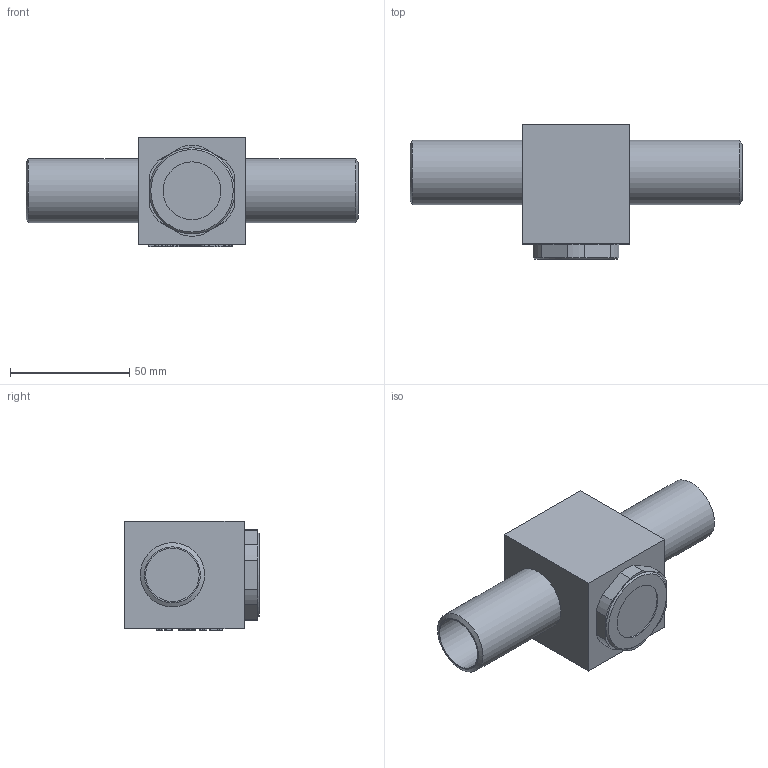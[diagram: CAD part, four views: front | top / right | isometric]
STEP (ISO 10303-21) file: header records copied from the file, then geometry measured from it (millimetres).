
FILE_DESCRIPTION(/* description */ (''),/* implementation_level */ '2;1');
FILE_NAME(/* name */ 'P:\Accessories\SSG-22_DN20-T-FL1\SSG-22_DN20-T-FL1.stp',/* time_stamp */ '2018-02-21T12:30:37+01:00',/* author */ ('neufeld'),/* organization */ (''),/* preprocessor_version */ 'ST-DEVELOPER v16.1',/* originating_system */ 'Autodesk Inventor 2016',/* authorisation */ '');
FILE_SCHEMA (('AUTOMOTIVE_DESIGN { 1 0 10303 214 3 1 1 }'));
Length unit declared in the file: millimetre
Products named in the file (1): SSG-22_DN20-T-FL1_AG_Kunde
Bounding box: 139 x 56.4 x 46 mm (x, y, z)
Volume: 144008.7 mm3; surface area: 25491.8 mm2
Topology: 1 solids, 1 shells, 1164 faces, 3200 edges, 2129 vertices
Faces by surface type: plane 681, bspline 463, cylinder 17, cone 3
Full cylindrical faces by diameter (mm): 22.4 x2, 24.2 x1, 26.9 x2
Entity records: 38539 total; most frequent: CARTESIAN_POINT 12009, ORIENTED_EDGE 6392, DIRECTION 3705, EDGE_CURVE 3190, LINE 2227, VECTOR 2227, VERTEX_POINT 2127, EDGE_LOOP 1263
